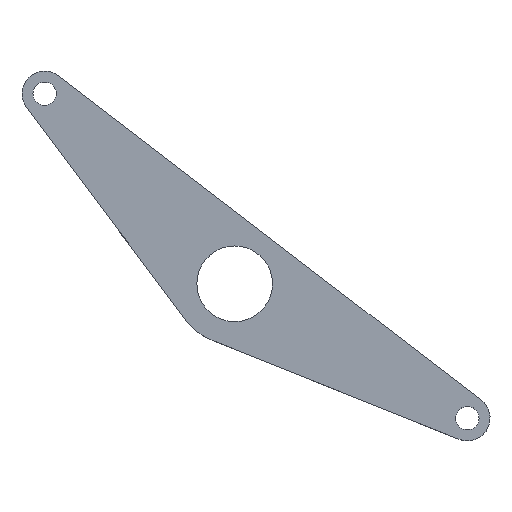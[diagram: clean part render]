
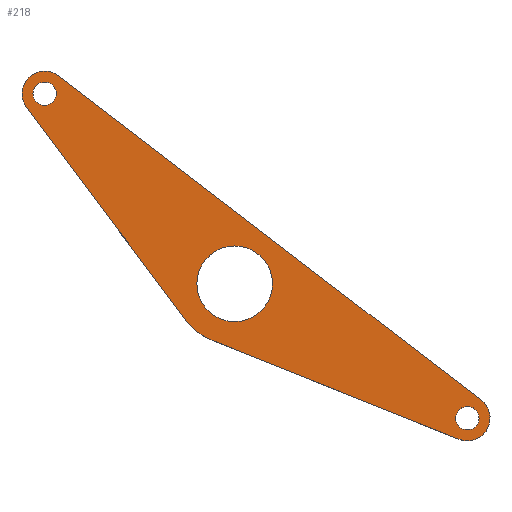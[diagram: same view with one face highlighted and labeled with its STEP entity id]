
A CAD part, top view. The second image highlights one B-rep face of the part: STEP entity #218.
In plain terms, the highlighted planar face has unit normal (0, 0, 1).
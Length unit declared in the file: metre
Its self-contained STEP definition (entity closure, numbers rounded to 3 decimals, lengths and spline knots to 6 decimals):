
#15=PLANE('',#256);
#22=LINE('',#350,#34);
#26=LINE('',#362,#38);
#29=LINE('',#381,#41);
#34=VECTOR('',#282,1.);
#38=VECTOR('',#294,1.);
#41=VECTOR('',#317,1.);
#72=ORIENTED_EDGE('',*,*,#98,.F.);
#73=ORIENTED_EDGE('',*,*,#102,.F.);
#74=ORIENTED_EDGE('',*,*,#105,.T.);
#75=ORIENTED_EDGE('',*,*,#108,.F.);
#76=ORIENTED_EDGE('',*,*,#111,.F.);
#77=ORIENTED_EDGE('',*,*,#117,.F.);
#78=ORIENTED_EDGE('',*,*,#114,.F.);
#79=ORIENTED_EDGE('',*,*,#112,.F.);
#80=ORIENTED_EDGE('',*,*,#118,.F.);
#98=EDGE_CURVE('',#124,#125,#143,.T.);
#102=EDGE_CURVE('',#127,#124,#22,.T.);
#105=EDGE_CURVE('',#127,#129,#145,.T.);
#108=EDGE_CURVE('',#131,#129,#26,.T.);
#111=EDGE_CURVE('',#133,#131,#147,.T.);
#112=EDGE_CURVE('',#134,#134,#148,.T.);
#114=EDGE_CURVE('',#136,#136,#150,.T.);
#117=EDGE_CURVE('',#125,#133,#29,.T.);
#118=EDGE_CURVE('',#138,#138,#152,.T.);
#124=VERTEX_POINT('',#341);
#125=VERTEX_POINT('',#343);
#127=VERTEX_POINT('',#349);
#129=VERTEX_POINT('',#355);
#131=VERTEX_POINT('',#361);
#133=VERTEX_POINT('',#367);
#134=VERTEX_POINT('',#371);
#136=VERTEX_POINT('',#376);
#138=VERTEX_POINT('',#384);
#143=CIRCLE('',#240,0.00805);
#145=CIRCLE('',#244,0.003);
#147=CIRCLE('',#248,0.003);
#148=CIRCLE('',#250,0.00155);
#150=CIRCLE('',#253,0.00155);
#152=CIRCLE('',#257,0.005);
#166=EDGE_LOOP('',(#72,#73,#74,#75,#76,#77));
#167=EDGE_LOOP('',(#78));
#168=EDGE_LOOP('',(#79));
#169=EDGE_LOOP('',(#80));
#190=FACE_BOUND('',#166,.T.);
#191=FACE_BOUND('',#167,.T.);
#192=FACE_BOUND('',#168,.T.);
#193=FACE_BOUND('',#169,.T.);
#218=ADVANCED_FACE('',(#190,#191,#192,#193),#15,.T.);
#240=AXIS2_PLACEMENT_3D('',#342,#275,#276);
#244=AXIS2_PLACEMENT_3D('',#356,#288,#289);
#248=AXIS2_PLACEMENT_3D('',#368,#300,#301);
#250=AXIS2_PLACEMENT_3D('',#370,#304,#305);
#253=AXIS2_PLACEMENT_3D('',#375,#310,#311);
#256=AXIS2_PLACEMENT_3D('',#382,#318,#319);
#257=AXIS2_PLACEMENT_3D('',#383,#320,#321);
#275=DIRECTION('',(0.,0.,-1.));
#276=DIRECTION('',(1.,0.,0.));
#282=DIRECTION('',(-0.928,0.372,0.));
#288=DIRECTION('',(0.,0.,1.));
#289=DIRECTION('',(1.,0.,0.));
#294=DIRECTION('',(0.793,-0.609,0.));
#300=DIRECTION('',(0.,0.,-1.));
#301=DIRECTION('',(1.,0.,0.));
#304=DIRECTION('',(0.,0.,1.));
#305=DIRECTION('',(1.,0.,0.));
#310=DIRECTION('',(0.,0.,1.));
#311=DIRECTION('',(1.,0.,0.));
#317=DIRECTION('',(-0.599,0.801,0.));
#318=DIRECTION('',(0.,0.,1.));
#319=DIRECTION('',(1.,0.,0.));
#320=DIRECTION('',(0.,0.,1.));
#321=DIRECTION('',(1.,0.,0.));
#341=CARTESIAN_POINT('',(-0.002992,-0.007473,0.004));
#342=CARTESIAN_POINT('',(0.,0.,0.004));
#343=CARTESIAN_POINT('',(-0.006444,-0.004825,0.004));
#349=CARTESIAN_POINT('',(0.029629,-0.020535,0.004));
#350=CARTESIAN_POINT('',(0.013318,-0.014004,0.004));
#355=CARTESIAN_POINT('',(0.03257,-0.01537,0.004));
#356=CARTESIAN_POINT('',(0.030744,-0.01775,0.004));
#361=CARTESIAN_POINT('',(-0.023276,0.027482,0.004));
#362=CARTESIAN_POINT('',(0.004647,0.006056,0.004));
#367=CARTESIAN_POINT('',(-0.027504,0.023304,0.004));
#368=CARTESIAN_POINT('',(-0.025102,0.025102,0.004));
#370=CARTESIAN_POINT('',(0.030744,-0.01775,0.004));
#371=CARTESIAN_POINT('',(0.032294,-0.01775,0.004));
#375=CARTESIAN_POINT('',(-0.025102,0.025102,0.004));
#376=CARTESIAN_POINT('',(-0.023552,0.025102,0.004));
#381=CARTESIAN_POINT('',(-0.016974,0.00924,0.004));
#382=CARTESIAN_POINT('',(0.,0.,0.004));
#383=CARTESIAN_POINT('',(0.,0.,0.004));
#384=CARTESIAN_POINT('',(0.005,0.,0.004));
